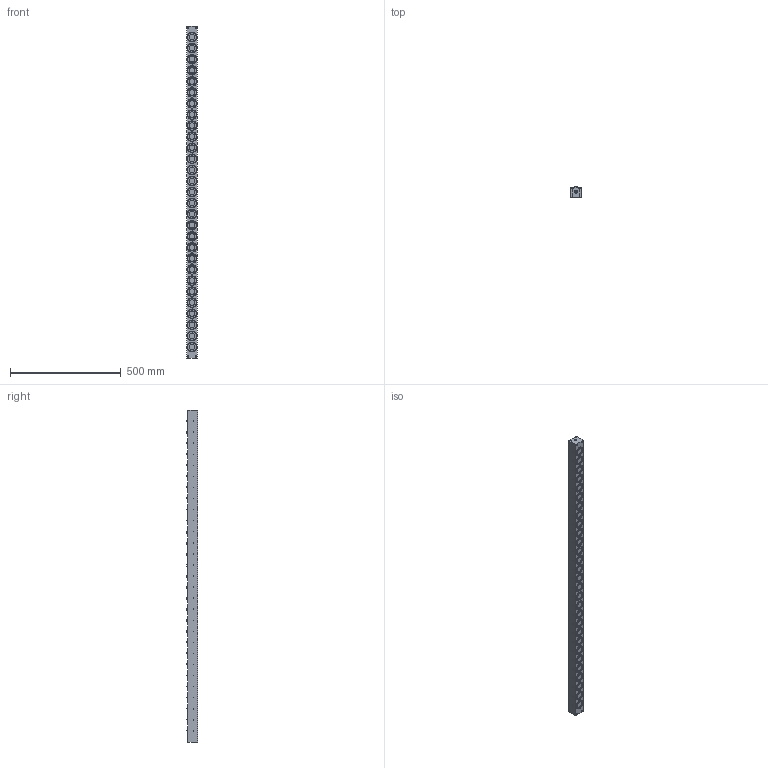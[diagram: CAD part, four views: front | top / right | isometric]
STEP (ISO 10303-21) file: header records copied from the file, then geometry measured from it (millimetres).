
FILE_DESCRIPTION (( 'STEP AP203' ), '1' );
FILE_NAME ('PVL55SW-29.STEP', '2016-02-18T08:45:05', ( '' ), ( '' ), 'SwSTEP 2.0', 'SolidWorks 2013', '' );
FILE_SCHEMA (( 'CONFIG_CONTROL_DESIGN' ));
Length unit declared in the file: millimetre
Products named in the file (1): PVL55SW-29
Bounding box: 49 x 50 x 1500 mm (x, y, z)
Volume: 3182476.4 mm3; surface area: 367349.5 mm2
Topology: 2 solids, 2 shells, 1353 faces, 3155 edges, 2013 vertices
Faces by surface type: cylinder 834, plane 339, cone 122, sphere 58
Entity records: 38698 total; most frequent: DIRECTION 7589, CARTESIAN_POINT 6402, ORIENTED_EDGE 6070, AXIS2_PLACEMENT_3D 3200, EDGE_CURVE 3035, VERTEX_POINT 2013, CIRCLE 1846, EDGE_LOOP 1688
